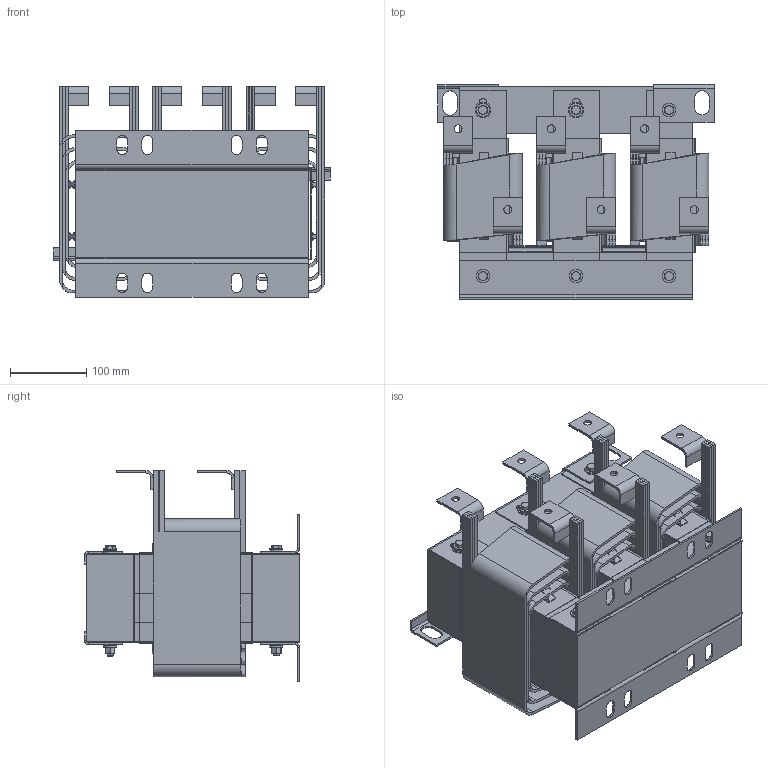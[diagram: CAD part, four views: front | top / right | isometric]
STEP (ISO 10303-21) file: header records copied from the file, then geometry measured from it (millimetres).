
FILE_DESCRIPTION (( 'STEP AP214' ), '1' );
FILE_NAME ('RL-40003B14.step', '2020-01-23T16:03:30', ( '' ), ( '' ), 'SwSTEP 2.0', 'SolidWorks 2018', '' );
FILE_SCHEMA (( 'AUTOMOTIVE_DESIGN' ));
Length unit declared in the file: inch
Products named in the file (31): LAM-3024-007; FLAT_WASHER_WASHER-13; MISC-0518_MODEL; DOGBONE-13_DB13-4-5A; LAM-1024-001_1.0; TVAR-010_PAPER-384; WASHER-11; LAM-3024-003; TVAR-020_PAPER-383; FLAT_WASHER_WASHER-12; TVAR-030_PAPER-382; WEDGE-250_WEDGE-6; COIL-2400129; RL-40003B14; KEPS_NUT_NUT-054; LAM-1024-001_1.5; 80240-042; PAPER-065_PAPER-065 [2.38 X 4.64] 2.4 LAM 4.5 STACK; .3125-18_HHCS_SCREW-89; LAM-2024-001_4.5; BRACKET-052; 4277-028; LAM-1024-001_2.0; LABEL-025_DATE CODE; MISC-0519_MODEL; 71240-002; LAM-3024-005; DOGBONE-22_DB22-2-25; DOGBONE-22_DB22-4A; 3811-001_PRODUCT LABEL
Assembly tree (127 placements, depth 3):
  MISC-0518_MODEL
  RL-40003B14
    LAM-2024-001_4.5  x2
    80240-042  x2
    BRACKET-052  x2
    3811-001_PRODUCT LABEL
    LABEL-025_DATE CODE
    DOGBONE-22_DB22-2-25  x2
    .3125-18_HHCS_SCREW-89  x6
    KEPS_NUT_NUT-054  x6
    FLAT_WASHER_WASHER-13  x4
    FLAT_WASHER_WASHER-12  x12
    WASHER-11  x12
    WEDGE-250_WEDGE-6  x2
    COIL-2400129  x3
      COIL-2400129
      4277-028
    PAPER-065_PAPER-065 [2.38 X 4.64] 2.4 LAM 4.5 STACK  x3
    TVAR-020_PAPER-383  x6
    TVAR-010_PAPER-384  x3
    TVAR-030_PAPER-382  x12
    DOGBONE-22_DB22-4A  x12
    DOGBONE-13_DB13-4-5A  x6
    71240-002  x6
    LAM-3024-007  x6
      LAM-1024-001_2.0
    LAM-3024-003  x6
      LAM-1024-001_1.0
    LAM-3024-005  x6
      LAM-1024-001_1.5
  MISC-0519_MODEL
Bounding box: 361.95 x 281.69 x 276.51 mm (x, y, z)
Volume: 10174662.3 mm3; surface area: 2906058.5 mm2
Topology: 127 solids, 127 shells, 2555 faces, 6568 edges, 4272 vertices
Faces by surface type: plane 1665, cylinder 676, bspline 76, cone 72, torus 66
Entity records: 31523 total; most frequent: CARTESIAN_POINT 9893, ORIENTED_EDGE 3668, DIRECTION 3384, EDGE_CURVE 1834, VERTEX_POINT 1195, LINE 1192, VECTOR 1192, AXIS2_PLACEMENT_3D 1096
